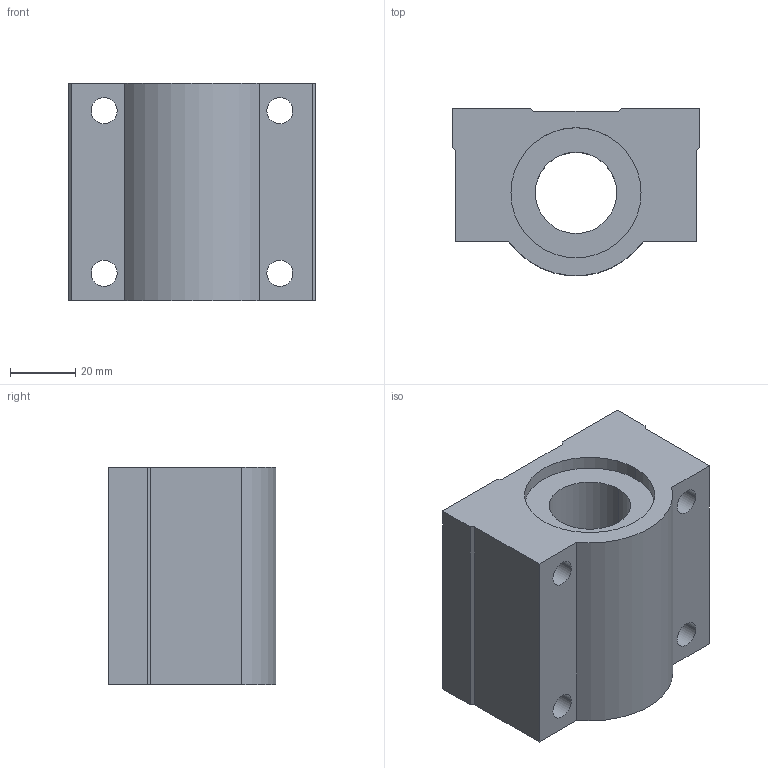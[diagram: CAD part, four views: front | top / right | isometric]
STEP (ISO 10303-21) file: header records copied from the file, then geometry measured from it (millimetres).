
FILE_DESCRIPTION((''),'2;1');
FILE_NAME('C:\Documents and Settings\ｿﾀﾀ蠑ｷ1\ｹﾙﾅﾁ ﾈｭｸ饅\ｺﾎﾇｰﾆﾄﾀﾏ\ﾁｦﾇｰ\SCE_UU\SCE25UU.stp','2005-06-22T15:37:27',('ｿﾀﾀ蠑ｷ1'),(''),'Autodesk Inventor 9','Autodesk Inventor 9','');
FILE_SCHEMA(('AUTOMOTIVE_DESIGN { 1 0 10303 214 1 1 1 1 }'));
Length unit declared in the file: millimetre
Products named in the file (1): SCE__UU
Bounding box: 76 x 51.41 x 67 mm (x, y, z)
Volume: 176198.4 mm3; surface area: 31157 mm2
Topology: 1 solids, 1 shells, 32 faces, 84 edges, 56 vertices
Faces by surface type: plane 17, bspline 8, cylinder 7
Entity records: 1145 total; most frequent: CARTESIAN_POINT 309, ORIENTED_EDGE 168, DIRECTION 164, EDGE_CURVE 84, VERTEX_POINT 56, AXIS2_PLACEMENT_3D 55, VECTOR 54, LINE 54
